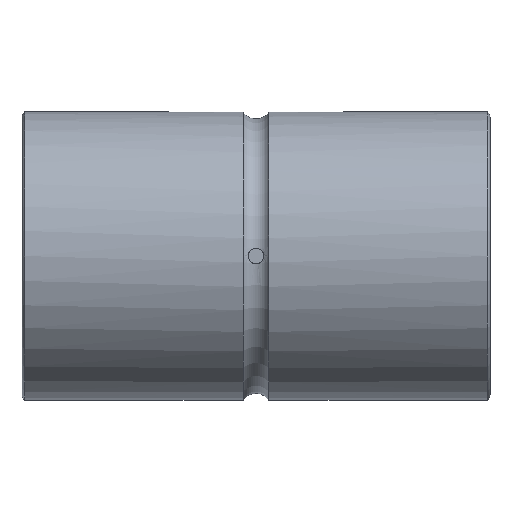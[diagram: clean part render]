
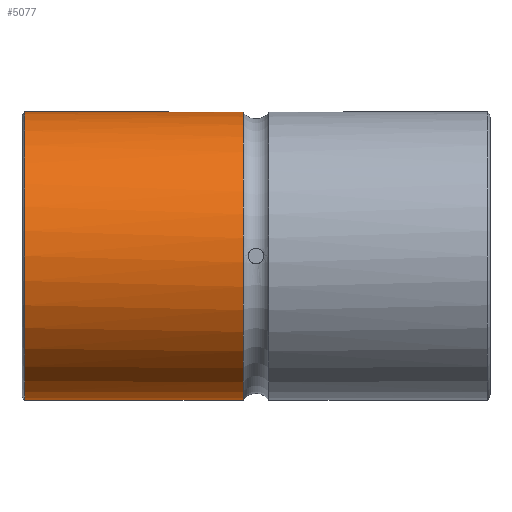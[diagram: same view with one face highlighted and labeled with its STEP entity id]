
A CAD part, front view. The second image highlights one B-rep face of the part: STEP entity #5077.
In plain terms, the highlighted cylindrical face has radius 18.5 mm (diameter 37 mm), a full revolution.
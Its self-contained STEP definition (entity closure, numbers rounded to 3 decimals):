
#44=B_SPLINE_CURVE_WITH_KNOTS('',3,(#8279,#8280,#8281,#8282,#8283,#8284,
#8285),.UNSPECIFIED.,.F.,.F.,(4,1,1,1,4),(0.,0.002,0.004,
0.006,0.008),.UNSPECIFIED.);
#460=LINE('',#8288,#974);
#461=LINE('',#8289,#975);
#974=VECTOR('',#6587,1000.);
#975=VECTOR('',#6588,1000.);
#1866=ORIENTED_EDGE('',*,*,#3208,.T.);
#1867=ORIENTED_EDGE('',*,*,#3209,.T.);
#1868=ORIENTED_EDGE('',*,*,#3201,.F.);
#1869=ORIENTED_EDGE('',*,*,#3210,.T.);
#1870=ORIENTED_EDGE('',*,*,#3207,.T.);
#3201=EDGE_CURVE('',#3865,#3866,#4226,.T.);
#3207=EDGE_CURVE('',#3871,#3871,#4228,.T.);
#3208=EDGE_CURVE('',#3872,#3873,#44,.T.);
#3209=EDGE_CURVE('',#3873,#3866,#460,.T.);
#3210=EDGE_CURVE('',#3865,#3872,#461,.F.);
#3865=VERTEX_POINT('',#8236);
#3866=VERTEX_POINT('',#8237);
#3871=VERTEX_POINT('',#8277);
#3872=VERTEX_POINT('',#8286);
#3873=VERTEX_POINT('',#8287);
#4226=CIRCLE('',#5555,18.5);
#4228=CIRCLE('',#5558,18.5);
#4393=EDGE_LOOP('',(#1866,#1867,#1868,#1869));
#4394=EDGE_LOOP('',(#1870));
#4691=FACE_BOUND('',#4393,.T.);
#4692=FACE_BOUND('',#4394,.T.);
#4940=CYLINDRICAL_SURFACE('',#5559,18.5);
#5077=ADVANCED_FACE('',(#4691,#4692),#4940,.T.);
#5555=AXIS2_PLACEMENT_3D('',#8235,#6577,#6578);
#5558=AXIS2_PLACEMENT_3D('',#8276,#6583,#6584);
#5559=AXIS2_PLACEMENT_3D('',#8278,#6585,#6586);
#6577=DIRECTION('',(1.,0.,0.));
#6578=DIRECTION('',(0.,0.,-1.));
#6583=DIRECTION('',(1.,0.,0.));
#6584=DIRECTION('',(0.,0.,-1.));
#6585=DIRECTION('',(1.,0.,0.));
#6586=DIRECTION('',(0.,0.,-1.));
#6587=DIRECTION('',(1.,0.,0.));
#6588=DIRECTION('',(1.,0.,0.));
#8235=CARTESIAN_POINT('',(-1.65,0.,0.));
#8236=CARTESIAN_POINT('',(-1.65,18.33,2.5));
#8237=CARTESIAN_POINT('',(-1.65,18.33,-2.5));
#8276=CARTESIAN_POINT('',(-29.66,0.,0.));
#8277=CARTESIAN_POINT('',(-29.66,0.,-18.5));
#8278=CARTESIAN_POINT('',(30.,0.,0.));
#8279=CARTESIAN_POINT('',(-14.,18.33,2.5));
#8280=CARTESIAN_POINT('',(-14.661,18.33,2.5));
#8281=CARTESIAN_POINT('',(-15.955,18.416,1.958));
#8282=CARTESIAN_POINT('',(-16.772,18.542,0.003));
#8283=CARTESIAN_POINT('',(-15.957,18.416,-1.958));
#8284=CARTESIAN_POINT('',(-14.661,18.33,-2.5));
#8285=CARTESIAN_POINT('',(-14.,18.33,-2.5));
#8286=CARTESIAN_POINT('',(-14.,18.33,2.5));
#8287=CARTESIAN_POINT('',(-14.,18.33,-2.5));
#8288=CARTESIAN_POINT('',(30.,18.33,-2.5));
#8289=CARTESIAN_POINT('',(30.,18.33,2.5));
